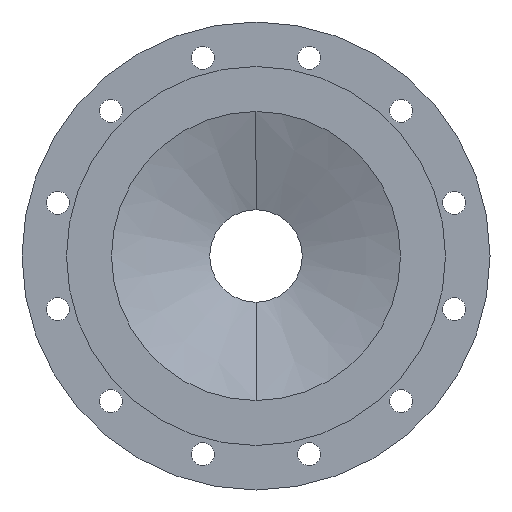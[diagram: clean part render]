
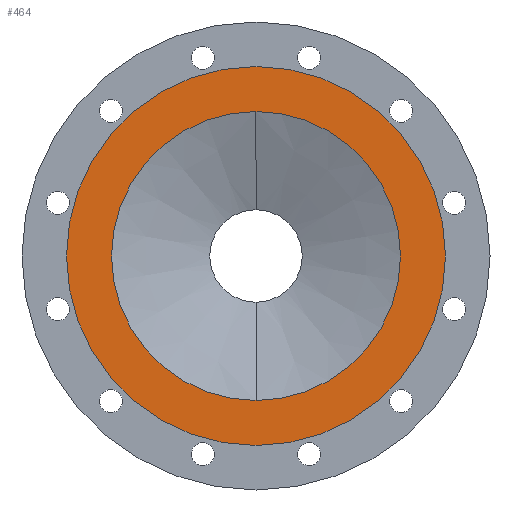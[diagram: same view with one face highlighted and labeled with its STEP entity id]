
A CAD part, left-side view. The second image highlights one B-rep face of the part: STEP entity #464.
In plain terms, the highlighted planar face has unit normal (-1, 0, 0).
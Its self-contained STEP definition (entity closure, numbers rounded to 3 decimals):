
#464=ADVANCED_FACE('',(#909,#910),#911,.F.);
#909=FACE_BOUND('',#1461,.T.);
#910=FACE_OUTER_BOUND('',#1462,.T.);
#911=PLANE('',#1463);
#1461=EDGE_LOOP('',(#2218,#2219));
#1462=EDGE_LOOP('',(#2220,#2221));
#1463=AXIS2_PLACEMENT_3D('',#2222,#2223,#2224);
#2218=ORIENTED_EDGE('',*,*,#3140,.T.);
#2219=ORIENTED_EDGE('',*,*,#3118,.T.);
#2220=ORIENTED_EDGE('',*,*,#2912,.F.);
#2221=ORIENTED_EDGE('',*,*,#2883,.F.);
#2222=CARTESIAN_POINT('',(0.0,0.0,0.));
#2223=DIRECTION('',(1.0,0.0,0.));
#2224=DIRECTION('',(0.,0.0,-1.0));
#2883=EDGE_CURVE('',#3346,#3341,#3348,.T.);
#2912=EDGE_CURVE('',#3341,#3346,#3397,.T.);
#3118=EDGE_CURVE('',#3724,#3722,#3725,.T.);
#3140=EDGE_CURVE('',#3722,#3724,#3756,.T.);
#3341=VERTEX_POINT('',#3996);
#3346=VERTEX_POINT('',#4002);
#3348=CIRCLE('',#4005,164.0);
#3397=CIRCLE('',#4066,164.0);
#3722=VERTEX_POINT('',#4491);
#3724=VERTEX_POINT('',#4494);
#3725=CIRCLE('',#4495,125.0);
#3756=CIRCLE('',#4538,125.0);
#3996=CARTESIAN_POINT('',(0.,0.0,-164.0));
#4002=CARTESIAN_POINT('',(0.,0.,164.0));
#4005=AXIS2_PLACEMENT_3D('',#4812,#4813,#4814);
#4066=AXIS2_PLACEMENT_3D('',#4851,#4852,#4853);
#4491=CARTESIAN_POINT('',(0.,0.0,-125.0));
#4494=CARTESIAN_POINT('',(0.,0.,125.0));
#4495=AXIS2_PLACEMENT_3D('',#5120,#5121,#5122);
#4538=AXIS2_PLACEMENT_3D('',#5141,#5142,#5143);
#4812=CARTESIAN_POINT('',(0.0,0.0,0.));
#4813=DIRECTION('',(1.0,0.0,0.));
#4814=DIRECTION('',(0.,0.0,-1.0));
#4851=CARTESIAN_POINT('',(0.0,0.0,0.));
#4852=DIRECTION('',(1.0,0.0,0.));
#4853=DIRECTION('',(0.,0.0,-1.0));
#5120=CARTESIAN_POINT('',(0.0,0.0,0.0));
#5121=DIRECTION('',(1.0,0.0,0.));
#5122=DIRECTION('',(0.,0.0,-1.0));
#5141=CARTESIAN_POINT('',(0.0,0.0,0.0));
#5142=DIRECTION('',(1.0,0.0,0.));
#5143=DIRECTION('',(0.,0.0,-1.0));
